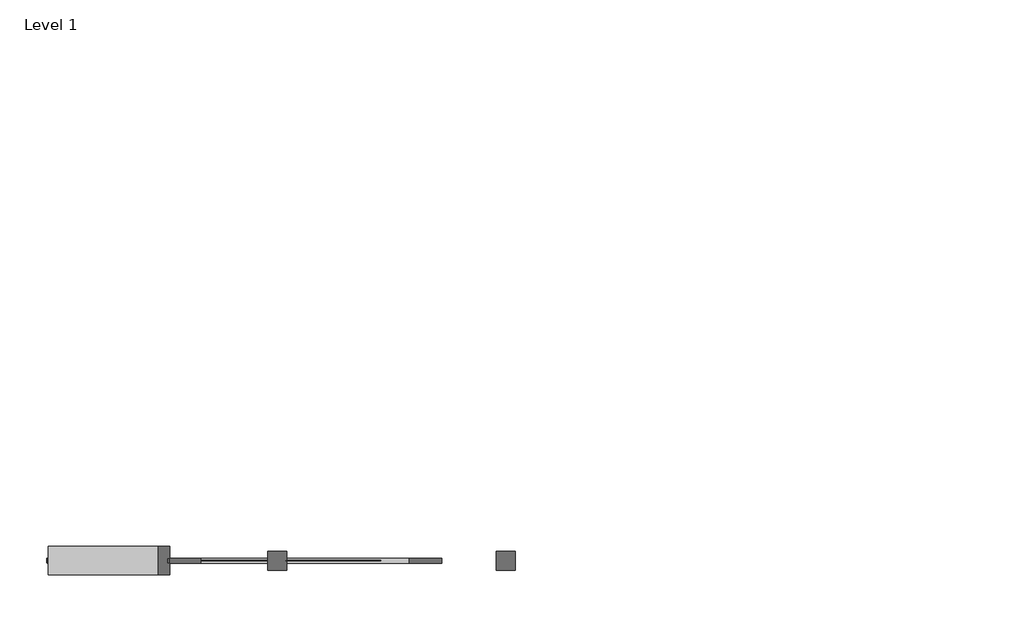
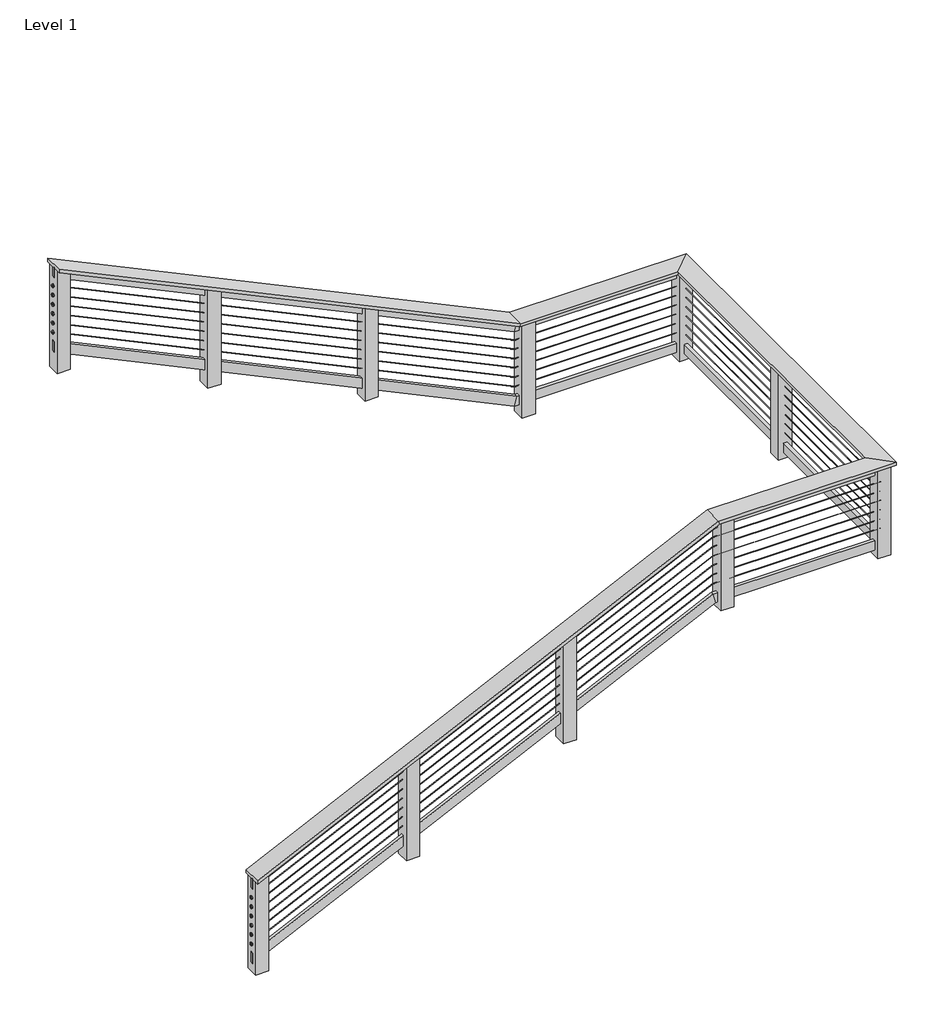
# One storey: 1 railing.
"""IFC4 building model written with IfcOpenShell, lengths in millimetres."""

from ifc_helpers import new_model, si_unit, origin, place, context, project, spatial, transform, mapped, element, save
from components import railing_a2ca8ca1, railing_004ec19b

model = new_model("IFC4")

# Units and contexts
model_context = context("Model", 3, world=origin())
ifc_project = project(units=[si_unit("LENGTHUNIT", "METRE", prefix="MILLI")], contexts=[model_context])

# Site, building, storey
site = spatial("IfcSite", under=ifc_project)
building = spatial("IfcBuilding", under=site)
storey = spatial("IfcBuildingStorey", under=building, Name="Level 1", Elevation=0.0)

# Railing
placement = place(None, origin())
railing_shape = railing_a2ca8ca1(model_context)
railing_2_shape = railing_004ec19b(model_context)
element("IfcRailing", 1, ObjectType="HandiSwage Cable Railing System", at=placement, inside=storey, context=model_context, shape_type="MappedRepresentation", body=[
    mapped(railing_shape, transform((0.0, 0.0, 0.0), x_axis=(1.0, 0.0, 0.0), y_axis=(0.0, 1.0, 0.0), z_axis=(0.0, 0.0, 1.0))),
    mapped(railing_2_shape, transform((0.0, 0.0, 0.0), x_axis=(1.0, 0.0, 0.0), y_axis=(0.0, 1.0, 0.0), z_axis=(0.0, 0.0, 1.0))),
])

save(model, "model.ifc")
